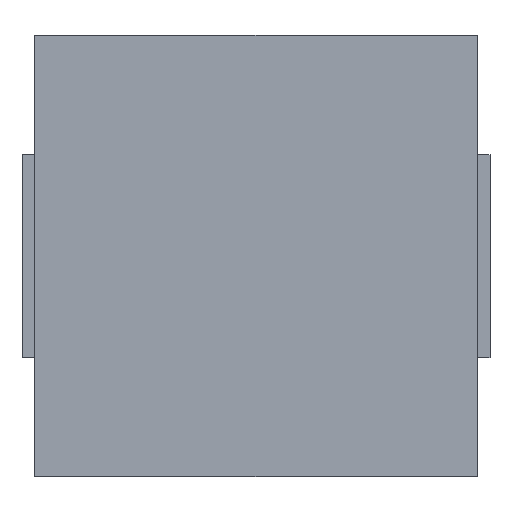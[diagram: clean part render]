
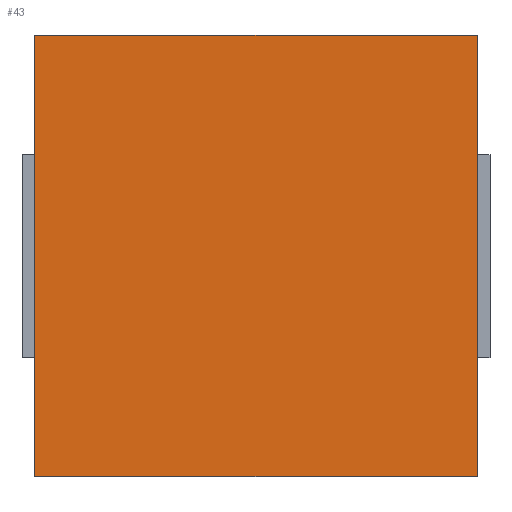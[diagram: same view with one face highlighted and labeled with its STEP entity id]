
A CAD part, top view. The second image highlights one B-rep face of the part: STEP entity #43.
In plain terms, the highlighted planar face has unit normal (0, 0, 1).
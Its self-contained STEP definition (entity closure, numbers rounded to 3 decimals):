
#43 = ADVANCED_FACE('',(#44),#78,.T.);
#44 = FACE_BOUND('',#45,.T.);
#45 = EDGE_LOOP('',(#46,#56,#64,#72));
#46 = ORIENTED_EDGE('',*,*,#47,.F.);
#47 = EDGE_CURVE('',#48,#50,#52,.T.);
#48 = VERTEX_POINT('',#49);
#49 = CARTESIAN_POINT('',(2.711,-2.705,2.997));
#50 = VERTEX_POINT('',#51);
#51 = CARTESIAN_POINT('',(-2.711,-2.705,2.997));
#52 = LINE('',#53,#54);
#53 = CARTESIAN_POINT('',(2.711,-2.705,2.997));
#54 = VECTOR('',#55,1.);
#55 = DIRECTION('',(-1.,0.,0.));
#56 = ORIENTED_EDGE('',*,*,#57,.F.);
#57 = EDGE_CURVE('',#58,#48,#60,.T.);
#58 = VERTEX_POINT('',#59);
#59 = CARTESIAN_POINT('',(2.711,2.705,2.997));
#60 = LINE('',#61,#62);
#61 = CARTESIAN_POINT('',(2.711,2.705,2.997));
#62 = VECTOR('',#63,1.);
#63 = DIRECTION('',(0.,-1.,0.));
#64 = ORIENTED_EDGE('',*,*,#65,.F.);
#65 = EDGE_CURVE('',#66,#58,#68,.T.);
#66 = VERTEX_POINT('',#67);
#67 = CARTESIAN_POINT('',(-2.711,2.705,2.997));
#68 = LINE('',#69,#70);
#69 = CARTESIAN_POINT('',(-2.711,2.705,2.997));
#70 = VECTOR('',#71,1.);
#71 = DIRECTION('',(1.,0.,0.));
#72 = ORIENTED_EDGE('',*,*,#73,.F.);
#73 = EDGE_CURVE('',#50,#66,#74,.T.);
#74 = LINE('',#75,#76);
#75 = CARTESIAN_POINT('',(-2.711,-2.705,2.997));
#76 = VECTOR('',#77,1.);
#77 = DIRECTION('',(0.,1.,0.));
#78 = PLANE('',#79);
#79 = AXIS2_PLACEMENT_3D('',#80,#81,#82);
#80 = CARTESIAN_POINT('',(-2.711,-2.705,2.997));
#81 = DIRECTION('',(0.,0.,1.));
#82 = DIRECTION('',(0.,1.,0.));
